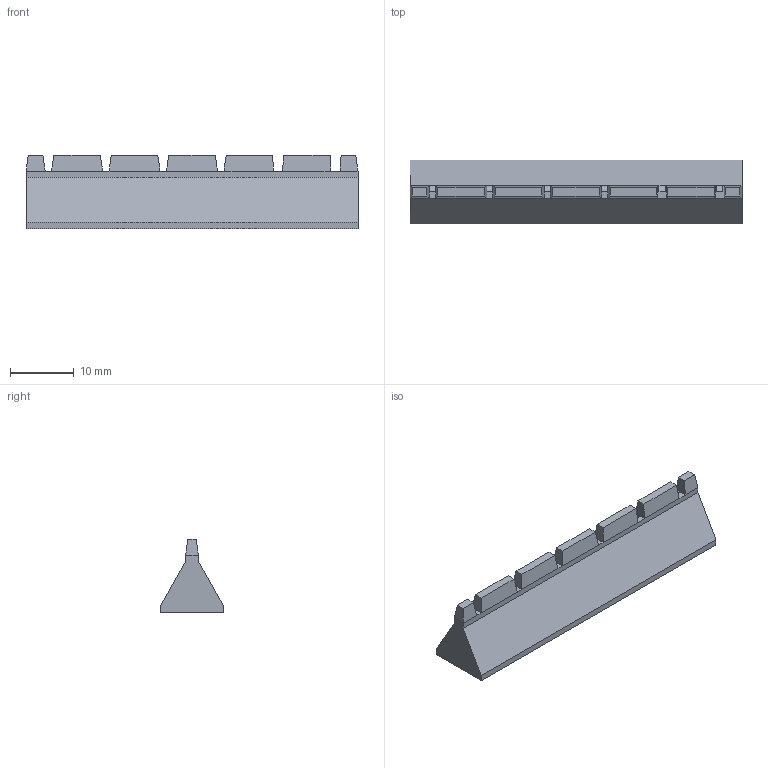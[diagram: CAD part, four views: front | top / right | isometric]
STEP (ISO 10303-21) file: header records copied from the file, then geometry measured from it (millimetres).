
FILE_DESCRIPTION(('STEP AP203'), '1');
FILE_NAME('ïîðîæåê 9 - 7 ïîä çàãëóáëåíèå 2ìì', '', ('UNSPECIFIED'), ('UNSPECIFIED'), 'ASCON STEP Converter 1.3', 'ASCON Math Kernel', '');
FILE_SCHEMA(('CONFIG_CONTROL_DESIGN'));
Length unit declared in the file: millimetre
Bounding box: 52 x 10 x 11.5 mm (x, y, z)
Volume: 2997.1 mm3; surface area: 2016.9 mm2
Topology: 1 solids, 1 shells, 81 faces, 189 edges, 110 vertices
Faces by surface type: plane 75, cylinder 6
Entity records: 2903 total; most frequent: CARTESIAN_POINT 381, ORIENTED_EDGE 378, DIRECTION 365, EDGE_CURVE 189, LINE 177, VECTOR 177, VERTEX_POINT 110, AXIS2_PLACEMENT_3D 94
